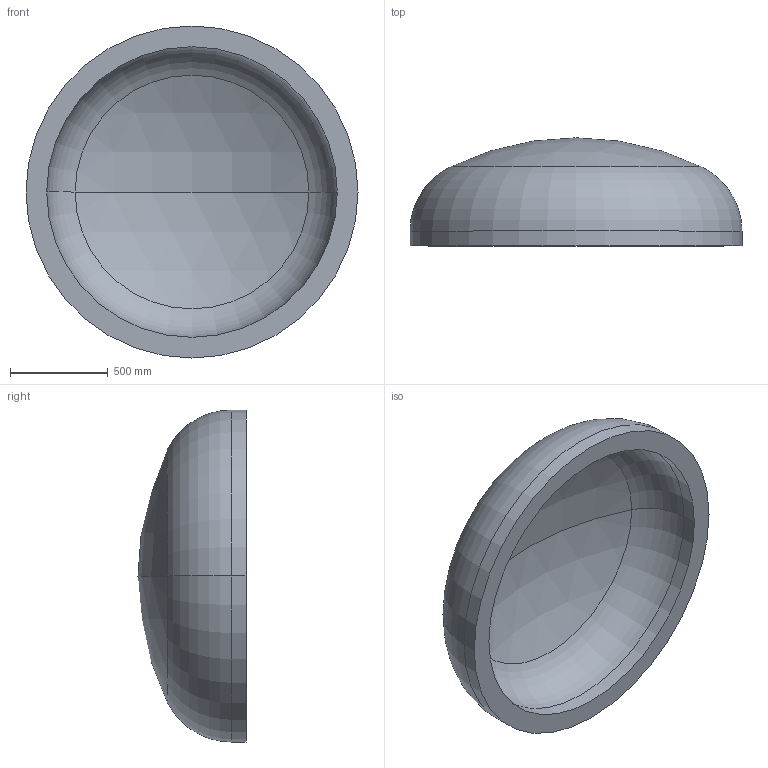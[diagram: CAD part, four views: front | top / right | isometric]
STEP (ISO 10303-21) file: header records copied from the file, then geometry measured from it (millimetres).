
FILE_DESCRIPTION (( 'STEP AP203' ), '1' );
FILE_NAME ('DIN 28013 Korbbogenform_-_Boden DIN 28013 - 1700 x 75 - I - s=106.step', '2016-07-01T12:09:17', ( '' ), ( '' ), 'SwSTEP 2.0', 'SolidWorks 2013', '' );
FILE_SCHEMA (( 'CONFIG_CONTROL_DESIGN' ));
Length unit declared in the file: millimetre
Products named in the file (1): DIN 28013 Korbbogenform_-_Boden DIN 28013 - 1700 x 75 - I - s=106
Bounding box: 1700 x 553.2 x 1700 mm (x, y, z)
Volume: 347185097.4 mm3; surface area: 7105009.3 mm2
Topology: 1 solids, 1 shells, 13 faces, 24 edges, 14 vertices
Faces by surface type: torus 4, cylinder 4, sphere 4, plane 1
Entity records: 407 total; most frequent: DIRECTION 72, CARTESIAN_POINT 52, ORIENTED_EDGE 48, AXIS2_PLACEMENT_3D 34, EDGE_CURVE 24, CIRCLE 20, VERTEX_POINT 14, EDGE_LOOP 14
